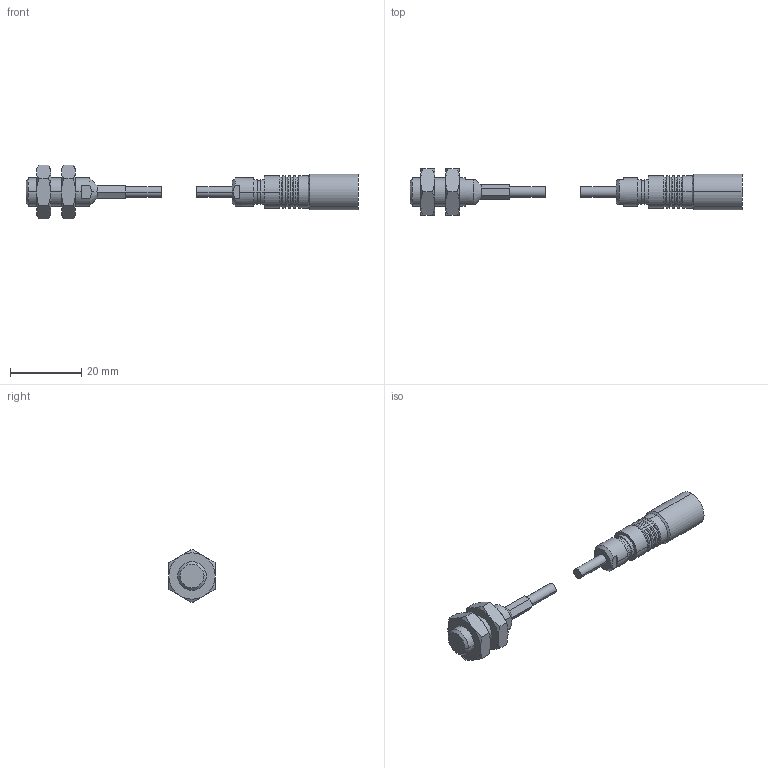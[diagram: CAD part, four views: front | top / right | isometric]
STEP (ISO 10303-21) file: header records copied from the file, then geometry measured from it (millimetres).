
FILE_DESCRIPTION((''),'2;1');
FILE_NAME('ES1_ASM','2017-02-17T',('11000065'),(''),'CREO PARAMETRIC BY PTC INC, 2016260','CREO PARAMETRIC BY PTC INC, 2016260','');
FILE_SCHEMA(('AUTOMOTIVE_DESIGN { 1 0 10303 214 1 1 1 1 }'));
Length unit declared in the file: millimetre
Products named in the file (1): ES1_ASM
Bounding box: 93.3 x 13 x 15.01 mm (x, y, z)
Volume: 4171.7 mm3; surface area: 2584.9 mm2
Topology: 2 solids, 2 shells, 138 faces, 312 edges, 196 vertices
Faces by surface type: plane 60, cone 40, cylinder 38
Entity records: 5936 total; most frequent: CARTESIAN_POINT 1227, DIRECTION 680, ORIENTED_EDGE 624, PRESENTATION_STYLE_ASSIGNMENT 314, STYLED_ITEM 314, CURVE_STYLE 312, EDGE_CURVE 312, AXIS2_PLACEMENT_3D 286
